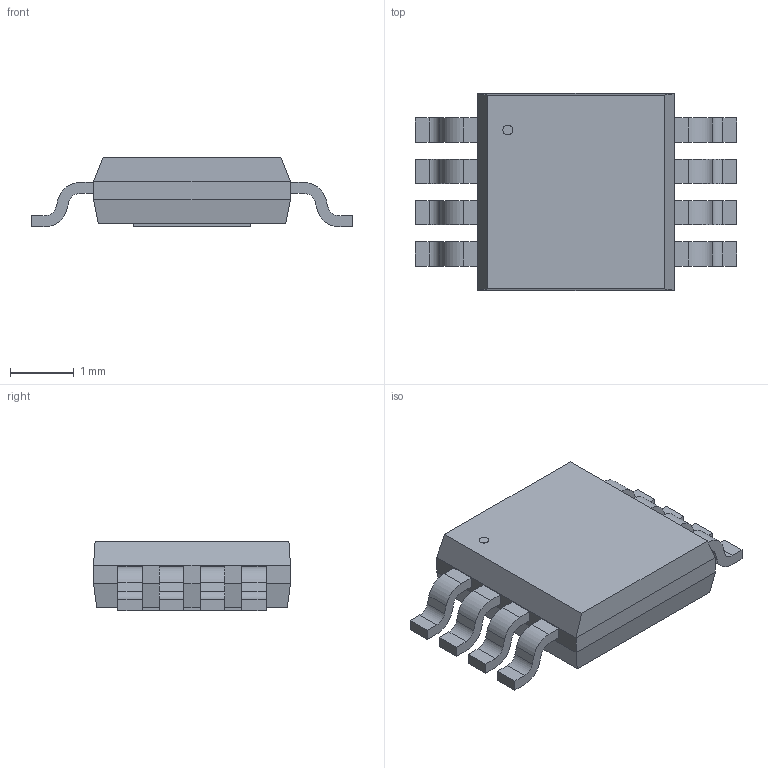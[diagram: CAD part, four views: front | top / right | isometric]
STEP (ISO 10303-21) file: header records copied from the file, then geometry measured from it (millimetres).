
FILE_DESCRIPTION(('STEP AP214'),'1');
FILE_NAME('VSSOP8_DGN_TEX','2025-07-21T01:47:05',(''),(''),'','','');
FILE_SCHEMA(('AUTOMOTIVE_DESIGN'));
Length unit declared in the file: millimetre
Products named in the file (1): product
Bounding box: 5.05 x 3.1 x 1.09 mm (x, y, z)
Volume: 10.5 mm3; surface area: 51 mm2
Topology: 11 solids, 11 shells, 135 faces, 331 edges, 218 vertices
Faces by surface type: plane 102, cylinder 33
Full cylindrical faces by diameter (mm): 0.155 x1
Entity records: 3933 total; most frequent: DIRECTION 670, ORIENTED_EDGE 660, CARTESIAN_POINT 389, EDGE_CURVE 330, LINE 264, VECTOR 264, VERTEX_POINT 218, AXIS2_PLACEMENT_3D 203
